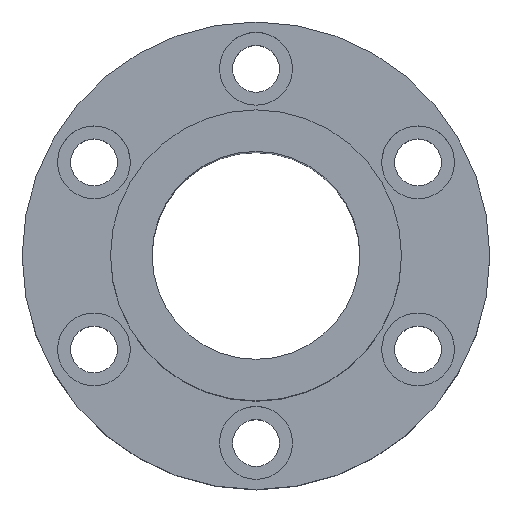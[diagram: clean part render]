
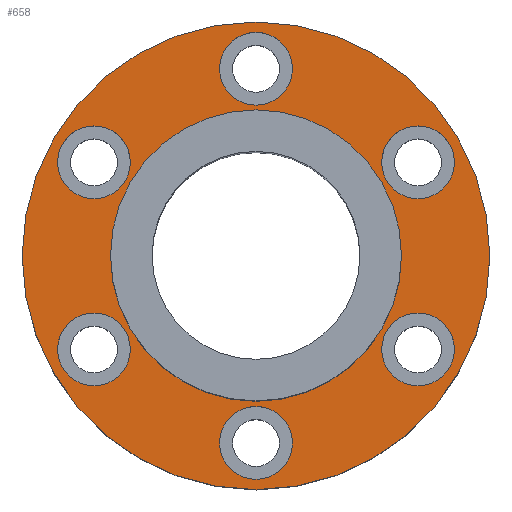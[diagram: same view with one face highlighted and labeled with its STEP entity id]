
A CAD part, top view. The second image highlights one B-rep face of the part: STEP entity #658.
In plain terms, the highlighted planar face has unit normal (0, 0, 1).
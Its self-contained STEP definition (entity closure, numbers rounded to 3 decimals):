
#1=CARTESIAN_POINT('',(0.,0.,17.5));
#2=DIRECTION('',(0.,0.,1.));
#3=DIRECTION('',(1.,0.,0.));
#4=AXIS2_PLACEMENT_3D('',#1,#2,#3);
#6=CARTESIAN_POINT('',(0.,0.,17.5));
#7=DIRECTION('',(0.,0.,1.));
#8=DIRECTION('',(-1.,0.,0.));
#9=AXIS2_PLACEMENT_3D('',#6,#7,#8);
#11=CARTESIAN_POINT('',(31.177,-18.,17.5));
#12=DIRECTION('',(0.,0.,-1.));
#13=DIRECTION('',(-0.5,-0.866,0.));
#14=AXIS2_PLACEMENT_3D('',#11,#12,#13);
#16=CARTESIAN_POINT('',(31.177,-18.,17.5));
#17=DIRECTION('',(0.,0.,-1.));
#18=DIRECTION('',(0.5,0.866,0.));
#19=AXIS2_PLACEMENT_3D('',#16,#17,#18);
#21=CARTESIAN_POINT('',(-31.177,-18.,17.5));
#22=DIRECTION('',(0.,0.,-1.));
#23=DIRECTION('',(-0.5,0.866,0.));
#24=AXIS2_PLACEMENT_3D('',#21,#22,#23);
#26=CARTESIAN_POINT('',(-31.177,-18.,17.5));
#27=DIRECTION('',(0.,0.,-1.));
#28=DIRECTION('',(0.5,-0.866,0.));
#29=AXIS2_PLACEMENT_3D('',#26,#27,#28);
#31=CARTESIAN_POINT('',(0.,36.,17.5));
#32=DIRECTION('',(0.,0.,-1.));
#33=DIRECTION('',(1.,0.,0.));
#34=AXIS2_PLACEMENT_3D('',#31,#32,#33);
#36=CARTESIAN_POINT('',(0.,36.,17.5));
#37=DIRECTION('',(0.,0.,-1.));
#38=DIRECTION('',(-1.,0.,0.));
#39=AXIS2_PLACEMENT_3D('',#36,#37,#38);
#41=CARTESIAN_POINT('',(0.,0.,17.5));
#42=DIRECTION('',(0.,0.,-1.));
#43=DIRECTION('',(1.,0.,0.));
#44=AXIS2_PLACEMENT_3D('',#41,#42,#43);
#46=CARTESIAN_POINT('',(0.,0.,17.5));
#47=DIRECTION('',(0.,0.,-1.));
#48=DIRECTION('',(-1.,0.,0.));
#49=AXIS2_PLACEMENT_3D('',#46,#47,#48);
#51=CARTESIAN_POINT('',(-31.177,18.,17.5));
#52=DIRECTION('',(0.,0.,-1.));
#53=DIRECTION('',(0.5,0.866,0.));
#54=AXIS2_PLACEMENT_3D('',#51,#52,#53);
#56=CARTESIAN_POINT('',(-31.177,18.,17.5));
#57=DIRECTION('',(0.,0.,-1.));
#58=DIRECTION('',(-0.5,-0.866,0.));
#59=AXIS2_PLACEMENT_3D('',#56,#57,#58);
#61=CARTESIAN_POINT('',(0.,-36.,17.5));
#62=DIRECTION('',(0.,0.,-1.));
#63=DIRECTION('',(-1.,0.,0.));
#64=AXIS2_PLACEMENT_3D('',#61,#62,#63);
#66=CARTESIAN_POINT('',(0.,-36.,17.5));
#67=DIRECTION('',(0.,0.,-1.));
#68=DIRECTION('',(1.,0.,0.));
#69=AXIS2_PLACEMENT_3D('',#66,#67,#68);
#71=CARTESIAN_POINT('',(31.177,18.,17.5));
#72=DIRECTION('',(0.,0.,-1.));
#73=DIRECTION('',(0.5,-0.866,0.));
#74=AXIS2_PLACEMENT_3D('',#71,#72,#73);
#76=CARTESIAN_POINT('',(31.177,18.,17.5));
#77=DIRECTION('',(0.,0.,-1.));
#78=DIRECTION('',(-0.5,0.866,0.));
#79=AXIS2_PLACEMENT_3D('',#76,#77,#78);
#533=CARTESIAN_POINT('',(-45.,0.,17.5));
#535=VERTEX_POINT('',#533);
#537=CARTESIAN_POINT('',(45.,0.,17.5));
#539=VERTEX_POINT('',#537);
#541=CARTESIAN_POINT('',(7.,36.,17.5));
#543=VERTEX_POINT('',#541);
#545=CARTESIAN_POINT('',(-7.,36.,17.5));
#547=VERTEX_POINT('',#545);
#549=CARTESIAN_POINT('',(-27.677,24.062,17.5));
#551=VERTEX_POINT('',#549);
#553=CARTESIAN_POINT('',(-34.677,11.938,17.5));
#555=VERTEX_POINT('',#553);
#557=CARTESIAN_POINT('',(-34.677,-11.938,17.5));
#559=VERTEX_POINT('',#557);
#561=CARTESIAN_POINT('',(-27.677,-24.062,17.5));
#563=VERTEX_POINT('',#561);
#565=CARTESIAN_POINT('',(-7.,-36.,17.5));
#567=VERTEX_POINT('',#565);
#569=CARTESIAN_POINT('',(7.,-36.,17.5));
#571=VERTEX_POINT('',#569);
#573=CARTESIAN_POINT('',(27.677,-24.062,17.5));
#575=VERTEX_POINT('',#573);
#577=CARTESIAN_POINT('',(34.677,-11.938,17.5));
#579=VERTEX_POINT('',#577);
#581=CARTESIAN_POINT('',(34.677,11.938,17.5));
#583=VERTEX_POINT('',#581);
#585=CARTESIAN_POINT('',(27.677,24.062,17.5));
#587=VERTEX_POINT('',#585);
#598=CARTESIAN_POINT('',(28.,0.,17.5));
#600=VERTEX_POINT('',#598);
#602=CARTESIAN_POINT('',(-28.,0.,17.5));
#604=VERTEX_POINT('',#602);
#605=CARTESIAN_POINT('',(0.,0.,17.5));
#606=DIRECTION('',(0.,0.,1.));
#607=DIRECTION('',(1.,0.,0.));
#608=AXIS2_PLACEMENT_3D('',#605,#606,#607);
#609=PLANE('',#608);
#611=ORIENTED_EDGE('',*,*,#610,.F.);
#613=ORIENTED_EDGE('',*,*,#612,.F.);
#614=EDGE_LOOP('',(#611,#613));
#615=FACE_OUTER_BOUND('',#614,.F.);
#617=ORIENTED_EDGE('',*,*,#616,.F.);
#619=ORIENTED_EDGE('',*,*,#618,.F.);
#620=EDGE_LOOP('',(#617,#619));
#621=FACE_BOUND('',#620,.F.);
#623=ORIENTED_EDGE('',*,*,#622,.F.);
#625=ORIENTED_EDGE('',*,*,#624,.F.);
#626=EDGE_LOOP('',(#623,#625));
#627=FACE_BOUND('',#626,.F.);
#629=ORIENTED_EDGE('',*,*,#628,.F.);
#631=ORIENTED_EDGE('',*,*,#630,.F.);
#632=EDGE_LOOP('',(#629,#631));
#633=FACE_BOUND('',#632,.F.);
#635=ORIENTED_EDGE('',*,*,#634,.F.);
#637=ORIENTED_EDGE('',*,*,#636,.F.);
#638=EDGE_LOOP('',(#635,#637));
#639=FACE_BOUND('',#638,.F.);
#641=ORIENTED_EDGE('',*,*,#640,.F.);
#643=ORIENTED_EDGE('',*,*,#642,.F.);
#644=EDGE_LOOP('',(#641,#643));
#645=FACE_BOUND('',#644,.F.);
#647=ORIENTED_EDGE('',*,*,#646,.F.);
#649=ORIENTED_EDGE('',*,*,#648,.F.);
#650=EDGE_LOOP('',(#647,#649));
#651=FACE_BOUND('',#650,.F.);
#653=ORIENTED_EDGE('',*,*,#652,.F.);
#655=ORIENTED_EDGE('',*,*,#654,.F.);
#656=EDGE_LOOP('',(#653,#655));
#657=FACE_BOUND('',#656,.F.);
#658=ADVANCED_FACE('',(#615,#621,#627,#633,#639,#645,#651,#657),#609,.T.);
#5=CIRCLE('',#4,45.);
#10=CIRCLE('',#9,45.);
#15=CIRCLE('',#14,7.);
#20=CIRCLE('',#19,7.);
#25=CIRCLE('',#24,7.);
#30=CIRCLE('',#29,7.);
#35=CIRCLE('',#34,7.);
#40=CIRCLE('',#39,7.);
#45=CIRCLE('',#44,28.);
#50=CIRCLE('',#49,28.);
#55=CIRCLE('',#54,7.);
#60=CIRCLE('',#59,7.);
#65=CIRCLE('',#64,7.);
#70=CIRCLE('',#69,7.);
#75=CIRCLE('',#74,7.);
#80=CIRCLE('',#79,7.);
#610=EDGE_CURVE('',#539,#535,#5,.T.);
#612=EDGE_CURVE('',#535,#539,#10,.T.);
#616=EDGE_CURVE('',#575,#579,#15,.T.);
#618=EDGE_CURVE('',#579,#575,#20,.T.);
#622=EDGE_CURVE('',#559,#563,#25,.T.);
#624=EDGE_CURVE('',#563,#559,#30,.T.);
#628=EDGE_CURVE('',#543,#547,#35,.T.);
#630=EDGE_CURVE('',#547,#543,#40,.T.);
#634=EDGE_CURVE('',#600,#604,#45,.T.);
#636=EDGE_CURVE('',#604,#600,#50,.T.);
#640=EDGE_CURVE('',#551,#555,#55,.T.);
#642=EDGE_CURVE('',#555,#551,#60,.T.);
#646=EDGE_CURVE('',#567,#571,#65,.T.);
#648=EDGE_CURVE('',#571,#567,#70,.T.);
#652=EDGE_CURVE('',#583,#587,#75,.T.);
#654=EDGE_CURVE('',#587,#583,#80,.T.);
